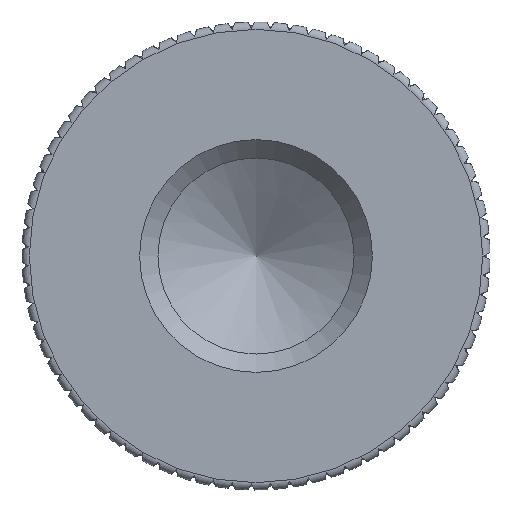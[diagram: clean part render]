
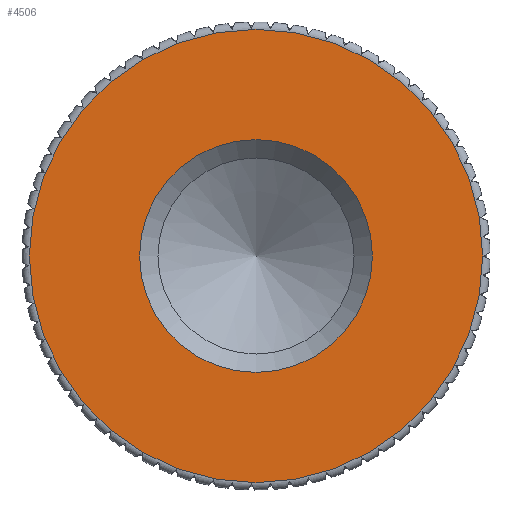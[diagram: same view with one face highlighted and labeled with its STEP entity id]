
A CAD part, front view. The second image highlights one B-rep face of the part: STEP entity #4506.
In plain terms, the highlighted planar face has unit normal (0, -1, 0).
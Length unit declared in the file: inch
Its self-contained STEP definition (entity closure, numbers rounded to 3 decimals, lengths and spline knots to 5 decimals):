
#19=FACE_BOUND('',#1028,.T.);
#476=PLANE('',#4922);
#788=FACE_OUTER_BOUND('',#1027,.T.);
#1027=EDGE_LOOP('',(#4232,#4233));
#1028=EDGE_LOOP('',(#4234,#4235));
#1500=CIRCLE('',#4533,0.095);
#1501=CIRCLE('',#4534,0.095);
#1582=CIRCLE('',#4620,0.185);
#1660=CIRCLE('',#4698,0.185);
#1678=VERTEX_POINT('',#6017);
#1679=VERTEX_POINT('',#6018);
#1912=VERTEX_POINT('',#7863);
#1913=VERTEX_POINT('',#7864);
#2152=EDGE_CURVE('',#1678,#1679,#1500,.T.);
#2153=EDGE_CURVE('',#1679,#1678,#1501,.T.);
#2391=EDGE_CURVE('',#1912,#1913,#1582,.T.);
#2617=EDGE_CURVE('',#1913,#1912,#1660,.T.);
#4232=ORIENTED_EDGE('',*,*,#2391,.F.);
#4233=ORIENTED_EDGE('',*,*,#2617,.F.);
#4234=ORIENTED_EDGE('',*,*,#2152,.T.);
#4235=ORIENTED_EDGE('',*,*,#2153,.T.);
#4506=ADVANCED_FACE('',(#788,#19),#476,.T.);
#4533=AXIS2_PLACEMENT_3D('',#6019,#4955,#4956);
#4534=AXIS2_PLACEMENT_3D('',#6020,#4957,#4958);
#4620=AXIS2_PLACEMENT_3D('',#7865,#5134,#5135);
#4698=AXIS2_PLACEMENT_3D('',#9646,#5290,#5291);
#4922=AXIS2_PLACEMENT_3D('',#10092,#5960,#5961);
#4955=DIRECTION('center_axis',(0.,1.,0.));
#4956=DIRECTION('ref_axis',(0.,0.,-1.));
#4957=DIRECTION('center_axis',(0.,1.,0.));
#4958=DIRECTION('ref_axis',(0.,0.,-1.));
#5134=DIRECTION('center_axis',(0.,1.,0.));
#5135=DIRECTION('ref_axis',(0.,0.,1.));
#5290=DIRECTION('center_axis',(0.,1.,0.));
#5291=DIRECTION('ref_axis',(0.,0.,1.));
#5960=DIRECTION('center_axis',(0.,-1.,0.));
#5961=DIRECTION('ref_axis',(0.,0.,-1.));
#6017=CARTESIAN_POINT('',(0.,0.,-0.095));
#6018=CARTESIAN_POINT('',(0.,0.,0.095));
#6019=CARTESIAN_POINT('Origin',(0.,0.,0.));
#6020=CARTESIAN_POINT('Origin',(0.,0.,0.));
#7863=CARTESIAN_POINT('',(0.,0.,-0.185));
#7864=CARTESIAN_POINT('',(0.,0.,0.185));
#7865=CARTESIAN_POINT('Origin',(0.,0.,0.));
#9646=CARTESIAN_POINT('Origin',(0.,0.,0.));
#10092=CARTESIAN_POINT('Origin',(0.,0.,0.));
